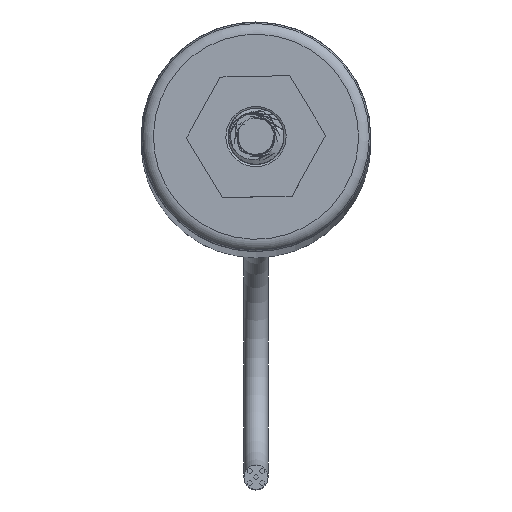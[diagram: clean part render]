
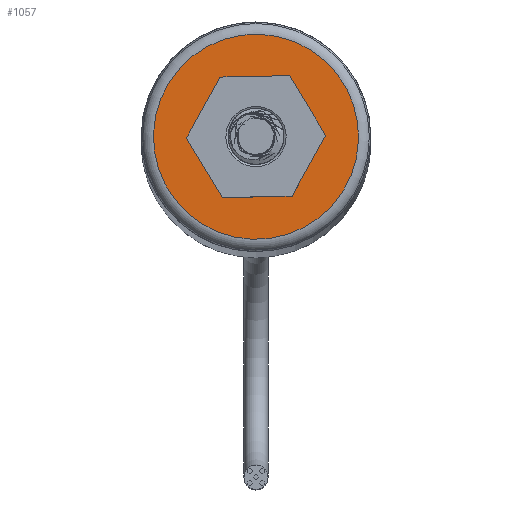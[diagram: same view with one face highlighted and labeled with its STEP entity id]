
A CAD part, top view. The second image highlights one B-rep face of the part: STEP entity #1057.
In plain terms, the highlighted planar face has unit normal (0, 0, 1).
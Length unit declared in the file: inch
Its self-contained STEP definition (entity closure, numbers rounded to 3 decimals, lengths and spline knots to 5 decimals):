
#74=FACE_BOUND('',#309,.T.);
#193=PLANE('',#1305);
#236=FACE_OUTER_BOUND('',#308,.T.);
#308=EDGE_LOOP('',(#758));
#309=EDGE_LOOP('',(#759));
#388=CIRCLE('',#1300,0.1675);
#392=CIRCLE('',#1306,0.0625);
#487=VERTEX_POINT('',#1866);
#490=VERTEX_POINT('',#1876);
#587=EDGE_CURVE('',#487,#487,#388,.T.);
#592=EDGE_CURVE('',#490,#490,#392,.T.);
#758=ORIENTED_EDGE('',*,*,#587,.F.);
#759=ORIENTED_EDGE('',*,*,#592,.T.);
#1057=ADVANCED_FACE('',(#236,#74),#193,.T.);
#1300=AXIS2_PLACEMENT_3D('',#1867,#1485,#1486);
#1305=AXIS2_PLACEMENT_3D('',#1875,#1496,#1497);
#1306=AXIS2_PLACEMENT_3D('',#1877,#1498,#1499);
#1485=DIRECTION('center_axis',(0.,0.,
-1.));
#1486=DIRECTION('ref_axis',(-0.788,-0.615,0.));
#1496=DIRECTION('center_axis',(0.,0.,
1.));
#1497=DIRECTION('ref_axis',(0.788,0.615,0.));
#1498=DIRECTION('center_axis',(0.,0.,
-1.));
#1499=DIRECTION('ref_axis',(0.788,0.615,0.));
#1866=CARTESIAN_POINT('',(-0.13203,-0.10308,0.029));
#1867=CARTESIAN_POINT('Origin',(0.,0.,
0.029));
#1875=CARTESIAN_POINT('Origin',(0.,0.,
0.029));
#1876=CARTESIAN_POINT('',(-0.04926,-0.03846,0.029));
#1877=CARTESIAN_POINT('Origin',(0.,0.,
0.029));
